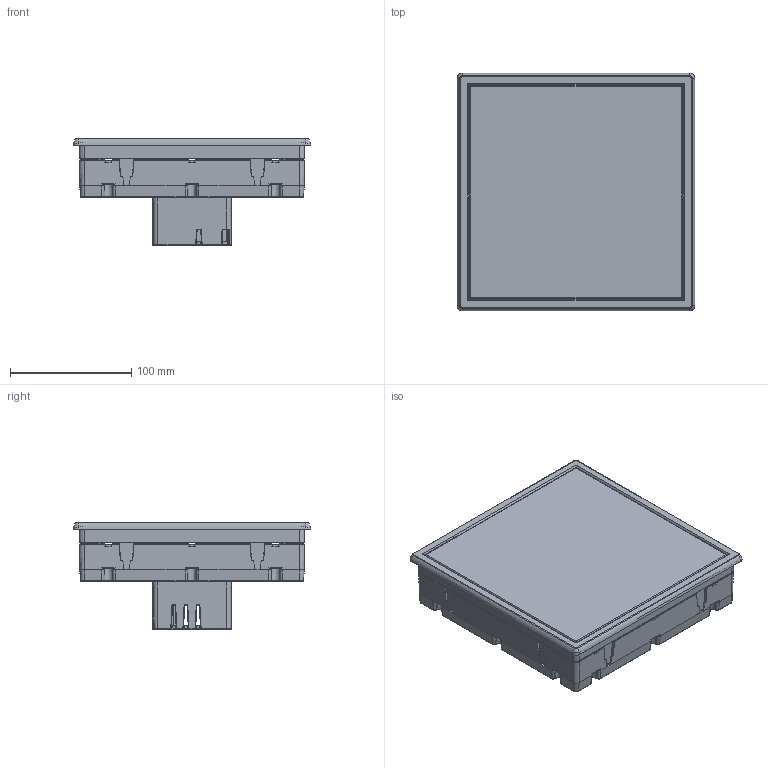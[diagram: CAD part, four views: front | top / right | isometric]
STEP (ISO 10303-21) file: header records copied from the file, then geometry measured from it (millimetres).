
FILE_DESCRIPTION(/* description */ (''),/* implementation_level */ '2;1');
FILE_NAME(/* name */ '\\deif.com\files\dok_dat\00arbdir\01_Customer files created by request\XL\XL192\XL192_asm_rear mount_20220913.stp',/* time_stamp */ '2022-09-13T14:39:32+02:00',/* author */ ('JDI'),/* organization */ (''),/* preprocessor_version */ 'ST-DEVELOPER v18.1',/* originating_system */ 'Autodesk Inventor 2022',/* authorisation */ '');
FILE_SCHEMA (('AUTOMOTIVE_DESIGN { 1 0 10303 214 3 1 1 }'));
Products named in the file (1): XL192_asm_rear mount_20090819_Simplify_1
Bounding box: 196 x 196 x 88.25 mm (x, y, z)
Volume: 364834.9 mm3; surface area: 257192 mm2
Topology: 1 solids, 2 shells, 2901 faces, 7282 edges, 4303 vertices
Faces by surface type: cylinder 1006, plane 661, bspline 645, torus 235, cone 222, sphere 132
Entity records: 149994 total; most frequent: CARTESIAN_POINT 80795, ORIENTED_EDGE 14504, DIRECTION 13502, EDGE_CURVE 7260, AXIS2_PLACEMENT_3D 5243, VERTEX_POINT 4303, LINE 3016, VECTOR 3016
